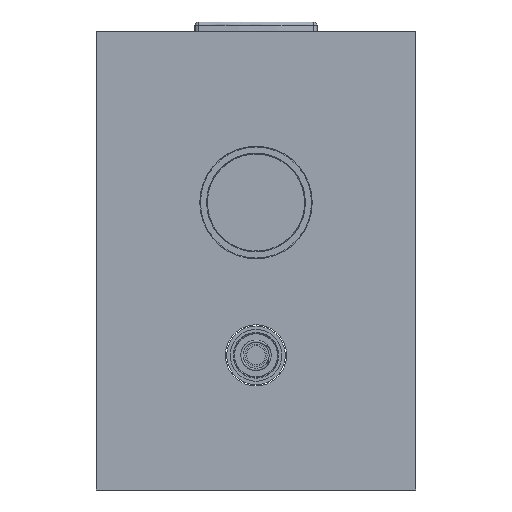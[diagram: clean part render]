
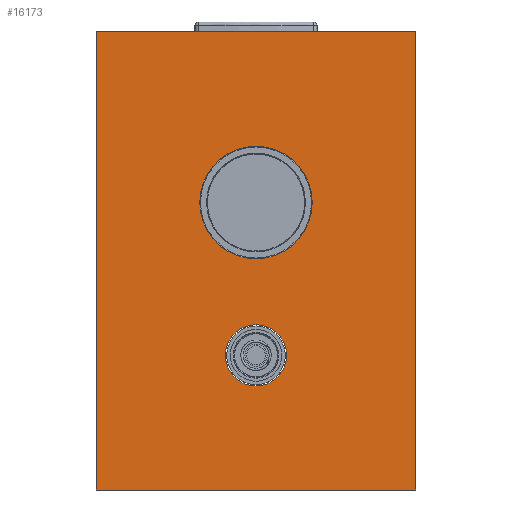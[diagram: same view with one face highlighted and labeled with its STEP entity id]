
A CAD part, front view. The second image highlights one B-rep face of the part: STEP entity #16173.
In plain terms, the highlighted planar face has unit normal (0, -1, 0).
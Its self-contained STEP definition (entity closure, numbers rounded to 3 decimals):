
#16000=DIRECTION('',(0.,0.,1.));
#16001=VECTOR('',#16000,165.);
#16002=CARTESIAN_POINT('',(-57.5,51.9,-103.5));
#16003=LINE('',#16002,#16001);
#16004=DIRECTION('',(1.,0.,0.));
#16005=VECTOR('',#16004,115.);
#16006=CARTESIAN_POINT('',(-57.5,51.9,61.5));
#16007=LINE('',#16006,#16005);
#16008=DIRECTION('',(0.,0.,-1.));
#16009=VECTOR('',#16008,165.);
#16010=CARTESIAN_POINT('',(57.5,51.9,61.5));
#16011=LINE('',#16010,#16009);
#16012=DIRECTION('',(-1.,0.,0.));
#16013=VECTOR('',#16012,115.);
#16014=CARTESIAN_POINT('',(57.5,51.9,-103.5));
#16015=LINE('',#16014,#16013);
#16016=CARTESIAN_POINT('',(0.,51.9,-55.));
#16017=DIRECTION('',(0.,-1.,0.));
#16018=DIRECTION('',(-1.,0.,0.));
#16019=AXIS2_PLACEMENT_3D('',#16016,#16017,#16018);
#16021=CARTESIAN_POINT('',(0.,51.9,-55.));
#16022=DIRECTION('',(0.,1.,0.));
#16023=DIRECTION('',(-1.,0.,0.));
#16024=AXIS2_PLACEMENT_3D('',#16021,#16022,#16023);
#16026=CARTESIAN_POINT('',(0.,51.9,0.));
#16027=DIRECTION('',(0.,-1.,0.));
#16028=DIRECTION('',(-1.,0.,0.));
#16029=AXIS2_PLACEMENT_3D('',#16026,#16027,#16028);
#16031=CARTESIAN_POINT('',(0.,51.9,0.));
#16032=DIRECTION('',(0.,-1.,0.));
#16033=DIRECTION('',(1.,0.,0.));
#16034=AXIS2_PLACEMENT_3D('',#16031,#16032,#16033);
#16110=CARTESIAN_POINT('',(-57.5,51.9,-103.5));
#16111=CARTESIAN_POINT('',(-57.5,51.9,61.5));
#16112=VERTEX_POINT('',#16110);
#16113=VERTEX_POINT('',#16111);
#16114=CARTESIAN_POINT('',(57.5,51.9,61.5));
#16115=CARTESIAN_POINT('',(57.5,51.9,-103.5));
#16116=VERTEX_POINT('',#16114);
#16117=VERTEX_POINT('',#16115);
#16122=CARTESIAN_POINT('',(11.,51.9,-55.));
#16123=CARTESIAN_POINT('',(-11.,51.9,-55.));
#16124=VERTEX_POINT('',#16122);
#16125=VERTEX_POINT('',#16123);
#16126=CARTESIAN_POINT('',(20.25,51.9,0.));
#16127=CARTESIAN_POINT('',(-20.25,51.9,0.));
#16128=VERTEX_POINT('',#16126);
#16129=VERTEX_POINT('',#16127);
#16146=CARTESIAN_POINT('',(0.,51.9,-21.));
#16147=DIRECTION('',(0.,1.,0.));
#16148=DIRECTION('',(1.,0.,0.));
#16149=AXIS2_PLACEMENT_3D('',#16146,#16147,#16148);
#16150=PLANE('',#16149);
#16152=ORIENTED_EDGE('',*,*,#16151,.T.);
#16154=ORIENTED_EDGE('',*,*,#16153,.T.);
#16156=ORIENTED_EDGE('',*,*,#16155,.T.);
#16158=ORIENTED_EDGE('',*,*,#16157,.T.);
#16159=EDGE_LOOP('',(#16152,#16154,#16156,#16158));
#16160=FACE_OUTER_BOUND('',#16159,.F.);
#16162=ORIENTED_EDGE('',*,*,#16161,.T.);
#16164=ORIENTED_EDGE('',*,*,#16163,.F.);
#16165=EDGE_LOOP('',(#16162,#16164));
#16166=FACE_BOUND('',#16165,.F.);
#16168=ORIENTED_EDGE('',*,*,#16167,.T.);
#16170=ORIENTED_EDGE('',*,*,#16169,.T.);
#16171=EDGE_LOOP('',(#16168,#16170));
#16172=FACE_BOUND('',#16171,.F.);
#16173=ADVANCED_FACE('',(#16160,#16166,#16172),#16150,.F.);
#16020=CIRCLE('',#16019,11.);
#16025=CIRCLE('',#16024,11.);
#16030=CIRCLE('',#16029,20.25);
#16035=CIRCLE('',#16034,20.25);
#16151=EDGE_CURVE('',#16112,#16113,#16003,.T.);
#16153=EDGE_CURVE('',#16113,#16116,#16007,.T.);
#16155=EDGE_CURVE('',#16116,#16117,#16011,.T.);
#16157=EDGE_CURVE('',#16117,#16112,#16015,.T.);
#16161=EDGE_CURVE('',#16125,#16124,#16020,.T.);
#16163=EDGE_CURVE('',#16125,#16124,#16025,.T.);
#16167=EDGE_CURVE('',#16129,#16128,#16030,.T.);
#16169=EDGE_CURVE('',#16128,#16129,#16035,.T.);
